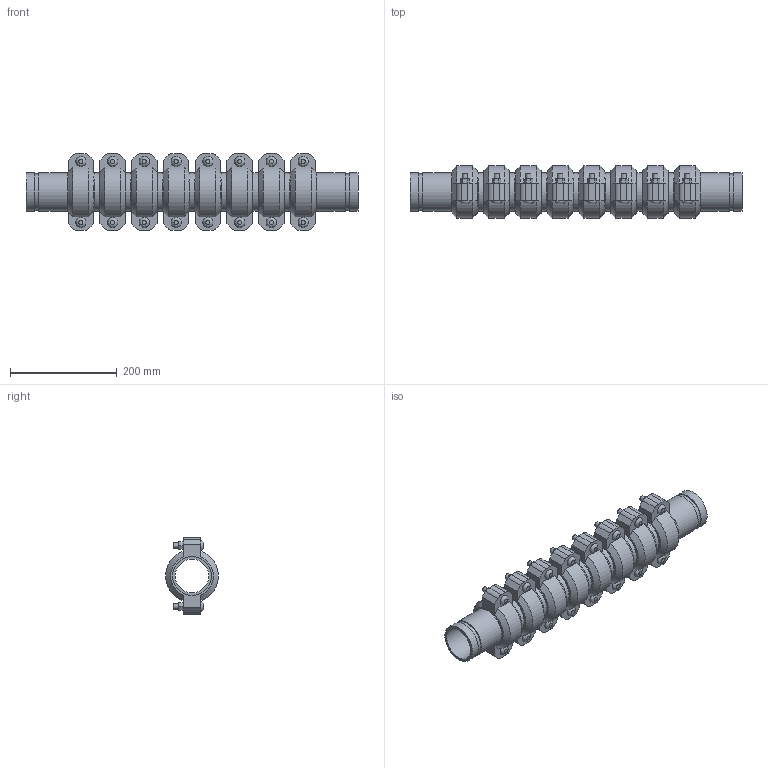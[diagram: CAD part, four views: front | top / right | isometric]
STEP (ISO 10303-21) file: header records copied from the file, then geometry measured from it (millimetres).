
FILE_DESCRIPTION(/* description */ ('VIC SS EXPANSION JOINT 8 COUPLINGS NEUTRAL STYLE 155P (OGS) (POTABLE WATER) ','CAx-IF Rec.Pracs.---Representation and Presentation of Product Manufacturing Information (PMI)---4.0---2014-10-13'),/* implementation_level */ '2;1');
FILE_NAME(/* name */ 'C:\Users\kkamble\AppData\Roaming\Autodesk\ApplicationPlugins\Victaulic.Temp\A279\Victaulic_SS_Expansion Joint_Neutral_8 Couplings_Style 155P (OGS)-Potable Water_8 Coup_Neut_2.5 (65).stp',/* time_stamp */ '2021-07-16T16:38:34+05:00',/* author */ ('kkamble'),/* organization */ ('Victaulic'),/* preprocessor_version */ 'ST-DEVELOPER v17.2',/* originating_system */ 'Autodesk Inventor 2019',/* authorisation */ '');
FILE_SCHEMA (('AP242_MANAGED_MODEL_BASED_3D_ENGINEERING_MIM_LF { 1 0 10303 442 1 1 4 }'));
Length unit declared in the file: inch
Products named in the file (4): 155P-02.5; Nipple-02.5; Nipple-02.5_1; 075-02.5
Assembly tree (17 placements, depth 2):
  155P-02.5
    Nipple-02.5  x2
    Nipple-02.5_1  x7
    075-02.5  x8
Bounding box: 622.3 x 98.22 x 144.27 mm (x, y, z)
Volume: 2279615.8 mm3; surface area: 643386.1 mm2
Topology: 17 solids, 33 shells, 564 faces, 1334 edges, 936 vertices
Faces by surface type: plane 342, cylinder 174, cone 32, bspline 16
Full cylindrical faces by diameter (mm): 9.525 x32, 11.43 x16, 63.475 x9, 66.675 x8, 69.088 x18, 73.025 x43
Entity records: 2849 total; most frequent: CARTESIAN_POINT 501, DIRECTION 477, ORIENTED_EDGE 386, EDGE_CURVE 193, AXIS2_PLACEMENT_3D 192, VERTEX_POINT 138, EDGE_LOOP 107, LINE 93
